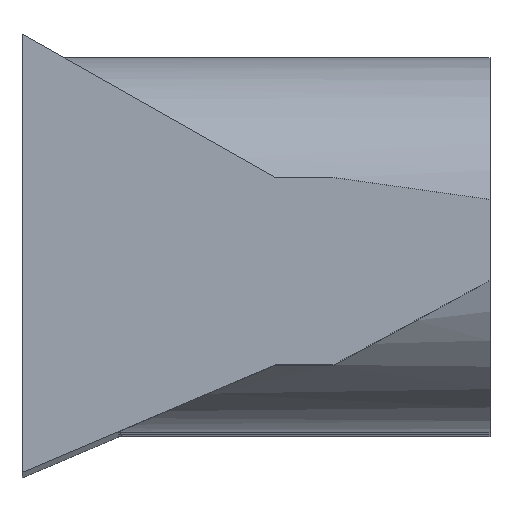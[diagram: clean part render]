
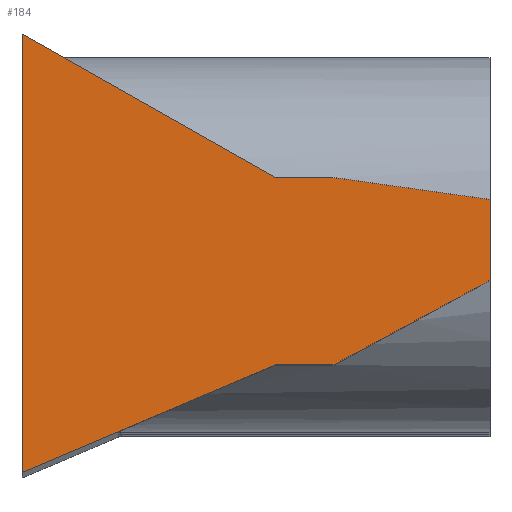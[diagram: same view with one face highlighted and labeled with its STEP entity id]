
A CAD part, top view. The second image highlights one B-rep face of the part: STEP entity #184.
In plain terms, the highlighted planar face has unit normal (0, 0, 1).
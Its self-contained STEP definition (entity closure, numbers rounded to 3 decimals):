
#184=ADVANCED_FACE('',(#702),#704,.T.);
#702=FACE_BOUND('',#703,.T.);
#703=EDGE_LOOP('',(#1074,#1075,#1076,#1077,#1078,#1079,#1080,#1081));
#704=PLANE('',#705);
#705=AXIS2_PLACEMENT_3D('',#706,#707,#708);
#706=CARTESIAN_POINT('',(0.,0.,25.3));
#707=DIRECTION('',(0.,0.,1.));
#708=DIRECTION('',(1.,0.,0.));
#1074=ORIENTED_EDGE('',*,*,#1331,.T.);
#1075=ORIENTED_EDGE('',*,*,#1344,.T.);
#1076=ORIENTED_EDGE('',*,*,#1345,.T.);
#1077=ORIENTED_EDGE('',*,*,#1346,.T.);
#1078=ORIENTED_EDGE('',*,*,#1306,.T.);
#1079=ORIENTED_EDGE('',*,*,#1343,.T.);
#1080=ORIENTED_EDGE('',*,*,#1347,.T.);
#1081=ORIENTED_EDGE('',*,*,#1348,.T.);
#1306=EDGE_CURVE('',#1460,#1458,#1461,.T.);
#1331=EDGE_CURVE('',#1510,#1508,#1511,.F.);
#1343=EDGE_CURVE('',#1458,#1528,#1530,.T.);
#1344=EDGE_CURVE('',#1508,#1531,#1532,.T.);
#1345=EDGE_CURVE('',#1531,#1533,#1534,.T.);
#1346=EDGE_CURVE('',#1533,#1460,#1535,.T.);
#1347=EDGE_CURVE('',#1528,#1536,#1537,.T.);
#1348=EDGE_CURVE('',#1536,#1510,#1538,.T.);
#1458=VERTEX_POINT('',#1781);
#1460=VERTEX_POINT('',#1785);
#1461=LINE('',#1786,#1787);
#1508=VERTEX_POINT('',#1889);
#1510=VERTEX_POINT('',#1893);
#1511=LINE('',#1894,#1895);
#1528=VERTEX_POINT('',#1936);
#1530=LINE('',#1940,#1941);
#1531=VERTEX_POINT('',#1943);
#1532=LINE('',#1944,#1945);
#1533=VERTEX_POINT('',#1947);
#1534=LINE('',#1948,#1949);
#1535=LINE('',#1951,#1952);
#1536=VERTEX_POINT('',#1954);
#1537=LINE('',#1955,#1956);
#1538=LINE('',#1958,#1959);
#1781=CARTESIAN_POINT('',(10.5,-0.376,25.3));
#1785=CARTESIAN_POINT('',(10.5,-1.673,25.3));
#1786=CARTESIAN_POINT('',(10.5,-1.673,25.3));
#1787=VECTOR('',#1788,1.);
#1788=DIRECTION('',(0.,1.,0.));
#1889=CARTESIAN_POINT('',(3.,-4.749,25.3));
#1893=CARTESIAN_POINT('',(3.,2.275,25.3));
#1894=CARTESIAN_POINT('',(3.,-4.749,25.3));
#1895=VECTOR('',#1896,1.);
#1896=DIRECTION('',(0.,1.,0.));
#1936=CARTESIAN_POINT('',(8.,-0.024,25.3));
#1940=CARTESIAN_POINT('',(10.5,-0.376,25.3));
#1941=VECTOR('',#1942,1.);
#1942=DIRECTION('',(-0.99,0.139,0.));
#1943=CARTESIAN_POINT('',(7.058,-3.024,25.3));
#1944=CARTESIAN_POINT('',(3.,-4.749,25.3));
#1945=VECTOR('',#1946,1.);
#1946=DIRECTION('',(0.92,0.391,0.));
#1947=CARTESIAN_POINT('',(8.,-3.024,25.3));
#1948=CARTESIAN_POINT('',(7.058,-3.024,25.3));
#1949=VECTOR('',#1950,1.);
#1950=DIRECTION('',(1.,0.,0.));
#1951=CARTESIAN_POINT('',(8.,-3.024,25.3));
#1952=VECTOR('',#1953,1.);
#1953=DIRECTION('',(0.88,0.476,0.));
#1954=CARTESIAN_POINT('',(7.058,-0.024,25.3));
#1955=CARTESIAN_POINT('',(8.,-0.024,25.3));
#1956=VECTOR('',#1957,1.);
#1957=DIRECTION('',(-1.,0.,0.));
#1958=CARTESIAN_POINT('',(7.058,-0.024,25.3));
#1959=VECTOR('',#1960,1.);
#1960=DIRECTION('',(-0.87,0.493,0.));
